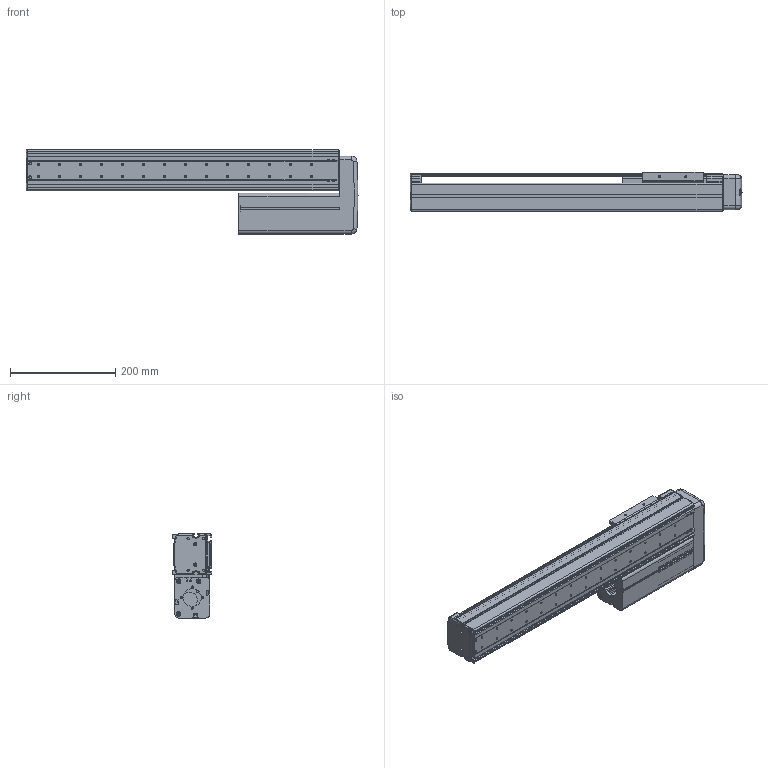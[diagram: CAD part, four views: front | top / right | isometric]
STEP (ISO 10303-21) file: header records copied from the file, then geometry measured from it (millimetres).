
FILE_DESCRIPTION((''),'2;1');
FILE_NAME('BE10E-UL-M_B-40_IGS_PRT','2017-06-17T',(' '),(''),'PRO/ENGINEER BY PARAMETRIC TECHNOLOGY CORPORATION, 2015030','PRO/ENGINEER BY PARAMETRIC TECHNOLOGY CORPORATION, 2015030','');
FILE_SCHEMA(('CONFIG_CONTROL_DESIGN'));
Length unit declared in the file: millimetre
Products named in the file (1): BE10E-UL-M_B-40_IGS_PRT
Bounding box: 632 x 75 x 160 mm (x, y, z)
Volume: 1085802.4 mm3; surface area: 753543.6 mm2
Topology: 2 solids, 103 shells, 1753 faces, 4724 edges, 3063 vertices
Faces by surface type: cylinder 825, plane 700, cone 81, torus 71, sphere 44, bspline 32
Entity records: 57213 total; most frequent: CARTESIAN_POINT 12080, DIRECTION 9798, ORIENTED_EDGE 8990, EDGE_CURVE 4690, AXIS2_PLACEMENT_3D 3648, VERTEX_POINT 3063, VECTOR 2502, LINE 2502
